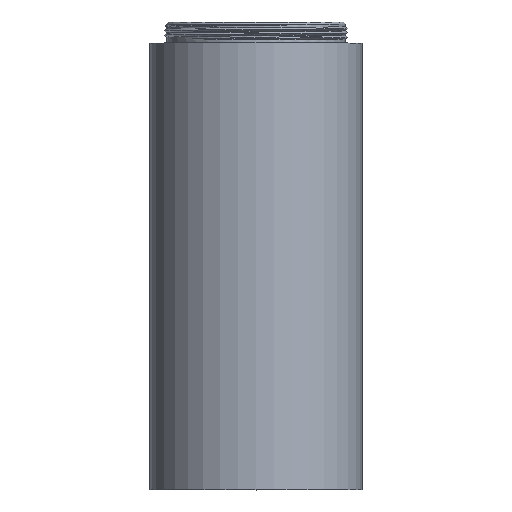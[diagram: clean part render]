
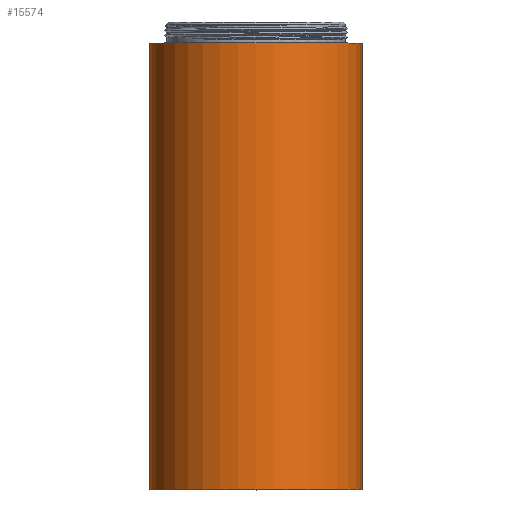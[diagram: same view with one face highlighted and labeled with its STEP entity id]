
A CAD part, top view. The second image highlights one B-rep face of the part: STEP entity #15574.
In plain terms, the highlighted cylindrical face has radius 15.2 mm (diameter 30.4 mm), a partial arc.
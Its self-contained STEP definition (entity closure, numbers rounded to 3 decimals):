
#6=CARTESIAN_POINT('',(0.,0.,0.));
#7=DIRECTION('',(0.,1.,0.));
#8=DIRECTION('',(-1.,0.,0.));
#9=AXIS2_PLACEMENT_3D('',#6,#7,#8);
#56=DIRECTION('',(0.,1.,0.));
#57=VECTOR('',#56,64.);
#58=CARTESIAN_POINT('',(15.2,0.,0.));
#59=LINE('',#58,#57);
#60=DIRECTION('',(0.,1.,0.));
#61=VECTOR('',#60,64.);
#62=CARTESIAN_POINT('',(-15.2,0.,0.));
#63=LINE('',#62,#61);
#69=CARTESIAN_POINT('',(0.,64.,0.));
#70=DIRECTION('',(0.,1.,0.));
#71=DIRECTION('',(-1.,0.,0.));
#72=AXIS2_PLACEMENT_3D('',#69,#70,#71);
#14800=CARTESIAN_POINT('',(15.2,0.,0.));
#14801=CARTESIAN_POINT('',(-15.2,0.,0.));
#14802=VERTEX_POINT('',#14800);
#14803=VERTEX_POINT('',#14801);
#14804=CARTESIAN_POINT('',(15.2,64.,0.));
#14805=CARTESIAN_POINT('',(-15.2,64.,0.));
#14806=VERTEX_POINT('',#14804);
#14807=VERTEX_POINT('',#14805);
#15562=CARTESIAN_POINT('',(0.,0.,0.));
#15563=DIRECTION('',(0.,1.,0.));
#15564=DIRECTION('',(1.,0.,0.));
#15565=AXIS2_PLACEMENT_3D('',#15562,#15563,#15564);
#15566=CYLINDRICAL_SURFACE('',#15565,15.2);
#15567=ORIENTED_EDGE('',*,*,#15534,.F.);
#15568=ORIENTED_EDGE('',*,*,#15557,.T.);
#15570=ORIENTED_EDGE('',*,*,#15569,.T.);
#15571=ORIENTED_EDGE('',*,*,#15553,.F.);
#15572=EDGE_LOOP('',(#15567,#15568,#15570,#15571));
#15573=FACE_OUTER_BOUND('',#15572,.F.);
#15574=ADVANCED_FACE('',(#15573),#15566,.T.);
#10=CIRCLE('',#9,15.2);
#73=CIRCLE('',#72,15.2);
#15534=EDGE_CURVE('',#14803,#14802,#10,.T.);
#15553=EDGE_CURVE('',#14802,#14806,#59,.T.);
#15557=EDGE_CURVE('',#14803,#14807,#63,.T.);
#15569=EDGE_CURVE('',#14807,#14806,#73,.T.);
